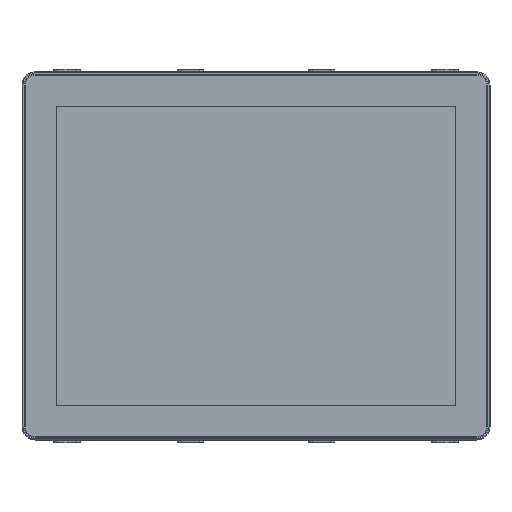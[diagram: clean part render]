
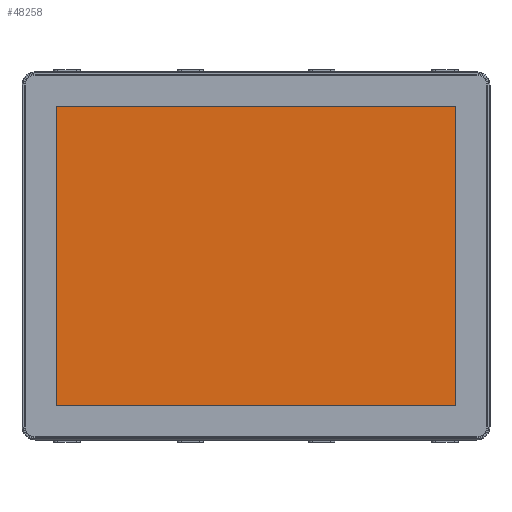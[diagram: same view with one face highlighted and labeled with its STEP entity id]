
A CAD part, top view. The second image highlights one B-rep face of the part: STEP entity #48258.
In plain terms, the highlighted planar face has unit normal (0, 0, 1) as drawn and (0, -1, 0) by its records, which use the part's own axes.
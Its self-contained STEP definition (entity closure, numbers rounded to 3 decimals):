
#2968 = FACE_OUTER_BOUND ( 'NONE', #71751, .T. ) ;
#5852 = DIRECTION ( 'NONE',  ( -1., 0., 0. ) ) ;
#11952 = CARTESIAN_POINT ( 'NONE',  ( -152., -3.9, -114. ) ) ;
#31271 = LINE ( 'NONE', #110739, #47631 ) ;
#33011 = CARTESIAN_POINT ( 'NONE',  ( -152., -3.9, -114. ) ) ;
#33136 = EDGE_CURVE ( 'NONE', #40033, #58678, #59660, .T. ) ;
#34822 = EDGE_CURVE ( 'NONE', #58678, #132564, #131514, .T. ) ;
#36718 = EDGE_CURVE ( 'NONE', #132564, #129702, #31271, .T. ) ;
#37589 = ORIENTED_EDGE ( 'NONE', *, *, #151864, .T. ) ;
#39003 = LINE ( 'NONE', #11952, #86806 ) ;
#40033 = VERTEX_POINT ( 'NONE', #33011 ) ;
#47631 = VECTOR ( 'NONE', #5852, 1000. ) ;
#48258 = ADVANCED_FACE ( 'NONE', ( #2968 ), #93493, .T. ) ;
#50402 = VECTOR ( 'NONE', #156874, 1000. ) ;
#53748 = DIRECTION ( 'NONE',  ( 0., 0., -1. ) ) ;
#58466 = ORIENTED_EDGE ( 'NONE', *, *, #33136, .T. ) ;
#58678 = VERTEX_POINT ( 'NONE', #82952 ) ;
#59660 = LINE ( 'NONE', #162765, #93277 ) ;
#66599 = ORIENTED_EDGE ( 'NONE', *, *, #34822, .T. ) ;
#68976 = DIRECTION ( 'NONE',  ( 0., -1., 0. ) ) ;
#71751 = EDGE_LOOP ( 'NONE', ( #37589, #58466, #66599, #95935 ) ) ;
#82952 = CARTESIAN_POINT ( 'NONE',  ( 152., -3.9, -114. ) ) ;
#86806 = VECTOR ( 'NONE', #104125, 1000. ) ;
#93277 = VECTOR ( 'NONE', #139899, 1000. ) ;
#93493 = PLANE ( 'NONE',  #164132 ) ;
#95935 = ORIENTED_EDGE ( 'NONE', *, *, #36718, .T. ) ;
#104125 = DIRECTION ( 'NONE',  ( 0., 0., -1. ) ) ;
#108746 = CARTESIAN_POINT ( 'NONE',  ( -168., -3.9, 130. ) ) ;
#110739 = CARTESIAN_POINT ( 'NONE',  ( 152., -3.9, 114. ) ) ;
#129702 = VERTEX_POINT ( 'NONE', #154518 ) ;
#129834 = CARTESIAN_POINT ( 'NONE',  ( 152., -3.9, -114. ) ) ;
#131514 = LINE ( 'NONE', #129834, #50402 ) ;
#132564 = VERTEX_POINT ( 'NONE', #152430 ) ;
#139899 = DIRECTION ( 'NONE',  ( 1., 0., 0. ) ) ;
#151864 = EDGE_CURVE ( 'NONE', #129702, #40033, #39003, .T. ) ;
#152430 = CARTESIAN_POINT ( 'NONE',  ( 152., -3.9, 114. ) ) ;
#154518 = CARTESIAN_POINT ( 'NONE',  ( -152., -3.9, 114. ) ) ;
#156874 = DIRECTION ( 'NONE',  ( 0., 0., 1. ) ) ;
#162765 = CARTESIAN_POINT ( 'NONE',  ( 152., -3.9, -114. ) ) ;
#164132 = AXIS2_PLACEMENT_3D ( 'NONE', #108746, #68976, #53748 ) ;
